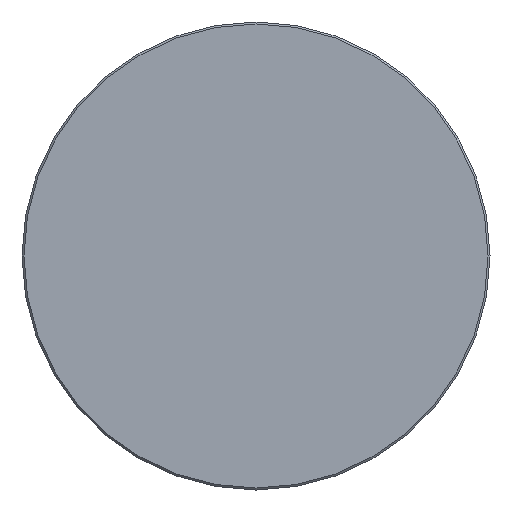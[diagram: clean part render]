
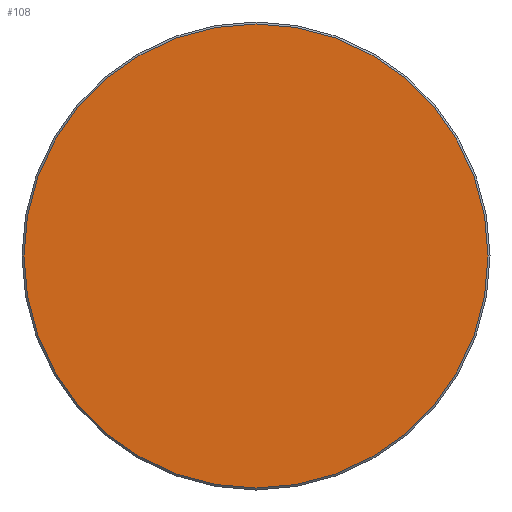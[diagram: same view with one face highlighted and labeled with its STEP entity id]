
A CAD part, left-side view. The second image highlights one B-rep face of the part: STEP entity #108.
In plain terms, the highlighted planar face has unit normal (-1, 0, 0).
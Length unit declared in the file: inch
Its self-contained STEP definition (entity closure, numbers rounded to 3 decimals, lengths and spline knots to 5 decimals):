
#6 = AXIS2_PLACEMENT_3D ( 'NONE', #277, #172, #341 ) ;
#14 = PLANE ( 'NONE',  #77 ) ;
#20 = DIRECTION ( 'NONE',  ( 0., -1., 0. ) ) ;
#26 = EDGE_CURVE ( 'NONE', #304, #93, #111, .T. ) ;
#30 = EDGE_CURVE ( 'NONE', #93, #304, #295, .T. ) ;
#65 = EDGE_LOOP ( 'NONE', ( #194, #118 ) ) ;
#77 = AXIS2_PLACEMENT_3D ( 'NONE', #142, #168, #368 ) ;
#93 = VERTEX_POINT ( 'NONE', #253 ) ;
#107 = FACE_OUTER_BOUND ( 'NONE', #65, .T. ) ;
#108 = ADVANCED_FACE ( 'NONE', ( #107 ), #14, .T. ) ;
#111 = CIRCLE ( 'NONE', #6, 0.46475 ) ;
#118 = ORIENTED_EDGE ( 'NONE', *, *, #30, .T. ) ;
#142 = CARTESIAN_POINT ( 'NONE',  ( 0., 0., 0. ) ) ;
#168 = DIRECTION ( 'NONE',  ( -1., 0., 0. ) ) ;
#169 = CARTESIAN_POINT ( 'NONE',  ( 0., 0., 0. ) ) ;
#172 = DIRECTION ( 'NONE',  ( -1., 0., 0. ) ) ;
#194 = ORIENTED_EDGE ( 'NONE', *, *, #26, .T. ) ;
#253 = CARTESIAN_POINT ( 'NONE',  ( 0., -0.46475, 0. ) ) ;
#260 = AXIS2_PLACEMENT_3D ( 'NONE', #169, #369, #20 ) ;
#277 = CARTESIAN_POINT ( 'NONE',  ( 0., 0., 0. ) ) ;
#295 = CIRCLE ( 'NONE', #260, 0.46475 ) ;
#304 = VERTEX_POINT ( 'NONE', #323 ) ;
#323 = CARTESIAN_POINT ( 'NONE',  ( 0., 0.46475, 0. ) ) ;
#341 = DIRECTION ( 'NONE',  ( 0., -1., 0. ) ) ;
#368 = DIRECTION ( 'NONE',  ( 0., -1., 0. ) ) ;
#369 = DIRECTION ( 'NONE',  ( -1., 0., 0. ) ) ;
